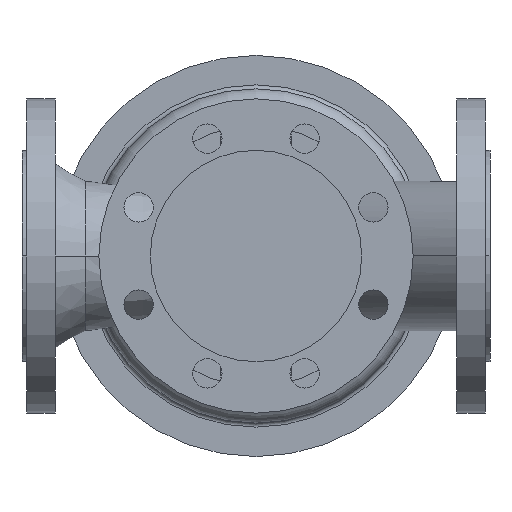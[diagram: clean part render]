
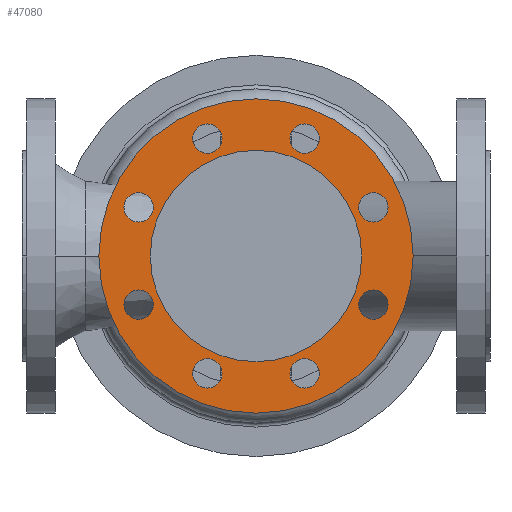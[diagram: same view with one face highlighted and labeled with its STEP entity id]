
A CAD part, front view. The second image highlights one B-rep face of the part: STEP entity #47080.
In plain terms, the highlighted planar face has unit normal (0, -1, 0).
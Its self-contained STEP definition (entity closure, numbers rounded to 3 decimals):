
#3110=CARTESIAN_POINT('',(96.,-146.5,0.));
#3120=VERTEX_POINT('',#3110);
#3150=CARTESIAN_POINT('',(175.,-146.5,0.));
#3160=DIRECTION('',(0.,-1.,0.));
#3170=DIRECTION('',(1.,0.,0.));
#3180=AXIS2_PLACEMENT_3D('',#3150,#3160,#3170);
#3190=CIRCLE('',#3180,79.);
#3200=CARTESIAN_POINT('',(254.,-146.5,0.));
#3210=VERTEX_POINT('',#3200);
#3220=EDGE_CURVE('',#3210,#3120,#3190,.T.);
#10430=CARTESIAN_POINT('',(292.5,-146.5,0.));
#10440=VERTEX_POINT('',#10430);
#10600=CARTESIAN_POINT('',(57.5,-146.5,0.));
#10610=VERTEX_POINT('',#10600);
#10640=CARTESIAN_POINT('',(175.,-146.5,0.));
#10650=DIRECTION('',(0.,1.,0.));
#10660=DIRECTION('',(1.,0.,0.));
#10670=AXIS2_PLACEMENT_3D('',#10640,#10650,#10660);
#10680=CIRCLE('',#10670,117.5);
#10690=EDGE_CURVE('',#10440,#10610,#10680,.T.);
#10850=CARTESIAN_POINT('',(251.769,-146.5,-36.355));
#10860=VERTEX_POINT('',#10850);
#11020=CARTESIAN_POINT('',(273.769,-146.5,-36.355));
#11030=VERTEX_POINT('',#11020);
#11060=CARTESIAN_POINT('',(262.769,-146.5,-36.355));
#11070=DIRECTION('',(0.,1.,0.));
#11080=DIRECTION('',(1.,0.,0.));
#11090=AXIS2_PLACEMENT_3D('',#11060,#11070,#11080);
#11100=CIRCLE('',#11090,11.);
#11110=EDGE_CURVE('',#11030,#10860,#11100,.T.);
#11270=CARTESIAN_POINT('',(273.769,-146.5,36.355));
#11280=VERTEX_POINT('',#11270);
#11440=CARTESIAN_POINT('',(251.769,-146.5,36.355));
#11450=VERTEX_POINT('',#11440);
#11480=CARTESIAN_POINT('',(262.769,-146.5,36.355));
#11490=DIRECTION('',(0.,1.,0.));
#11500=DIRECTION('',(1.,0.,0.));
#11510=AXIS2_PLACEMENT_3D('',#11480,#11490,#11500);
#11520=CIRCLE('',#11510,11.);
#11530=EDGE_CURVE('',#11450,#11280,#11520,.T.);
#11690=CARTESIAN_POINT('',(222.355,-146.5,-87.769));
#11700=VERTEX_POINT('',#11690);
#11860=CARTESIAN_POINT('',(200.355,-146.5,-87.769));
#11870=VERTEX_POINT('',#11860);
#11900=CARTESIAN_POINT('',(211.355,-146.5,-87.769));
#11910=DIRECTION('',(0.,1.,0.));
#11920=DIRECTION('',(1.,0.,0.));
#11930=AXIS2_PLACEMENT_3D('',#11900,#11910,#11920);
#11940=CIRCLE('',#11930,11.);
#11950=EDGE_CURVE('',#11870,#11700,#11940,.T.);
#12110=CARTESIAN_POINT('',(222.355,-146.5,87.769));
#12120=VERTEX_POINT('',#12110);
#12280=CARTESIAN_POINT('',(200.355,-146.5,87.769));
#12290=VERTEX_POINT('',#12280);
#12320=CARTESIAN_POINT('',(211.355,-146.5,87.769));
#12330=DIRECTION('',(0.,1.,0.));
#12340=DIRECTION('',(1.,0.,0.));
#12350=AXIS2_PLACEMENT_3D('',#12320,#12330,#12340);
#12360=CIRCLE('',#12350,11.);
#12370=EDGE_CURVE('',#12290,#12120,#12360,.T.);
#12530=CARTESIAN_POINT('',(127.645,-146.5,-87.769));
#12540=VERTEX_POINT('',#12530);
#12570=CARTESIAN_POINT('',(138.645,-146.5,-87.769));
#12580=DIRECTION('',(0.,1.,0.));
#12590=DIRECTION('',(1.,0.,0.));
#12600=AXIS2_PLACEMENT_3D('',#12570,#12580,#12590);
#12610=CIRCLE('',#12600,11.);
#12620=CARTESIAN_POINT('',(149.645,-146.5,-87.769));
#12630=VERTEX_POINT('',#12620);
#12640=EDGE_CURVE('',#12540,#12630,#12610,.T.);
#12950=CARTESIAN_POINT('',(149.645,-146.5,87.769));
#12960=VERTEX_POINT('',#12950);
#13120=CARTESIAN_POINT('',(127.645,-146.5,87.769));
#13130=VERTEX_POINT('',#13120);
#13160=CARTESIAN_POINT('',(138.645,-146.5,87.769));
#13170=DIRECTION('',(0.,1.,0.));
#13180=DIRECTION('',(1.,0.,0.));
#13190=AXIS2_PLACEMENT_3D('',#13160,#13170,#13180);
#13200=CIRCLE('',#13190,11.);
#13210=EDGE_CURVE('',#13130,#12960,#13200,.T.);
#13370=CARTESIAN_POINT('',(76.231,-146.5,-36.355));
#13380=VERTEX_POINT('',#13370);
#13410=CARTESIAN_POINT('',(87.231,-146.5,-36.355));
#13420=DIRECTION('',(0.,1.,0.));
#13430=DIRECTION('',(1.,0.,0.));
#13440=AXIS2_PLACEMENT_3D('',#13410,#13420,#13430);
#13450=CIRCLE('',#13440,11.);
#13460=CARTESIAN_POINT('',(98.231,-146.5,-36.355));
#13470=VERTEX_POINT('',#13460);
#13480=EDGE_CURVE('',#13380,#13470,#13450,.T.);
#13790=CARTESIAN_POINT('',(76.231,-146.5,36.355));
#13800=VERTEX_POINT('',#13790);
#13960=CARTESIAN_POINT('',(98.231,-146.5,36.355));
#13970=VERTEX_POINT('',#13960);
#14000=CARTESIAN_POINT('',(87.231,-146.5,36.355));
#14010=DIRECTION('',(0.,1.,0.));
#14020=DIRECTION('',(1.,0.,0.));
#14030=AXIS2_PLACEMENT_3D('',#14000,#14010,#14020);
#14040=CIRCLE('',#14030,11.);
#14050=EDGE_CURVE('',#13970,#13800,#14040,.T.);
#46530=CARTESIAN_POINT('',(175.,-146.5,0.));
#46540=DIRECTION('',(0.,1.,0.));
#46550=DIRECTION('',(0.,0.,1.));
#46560=AXIS2_PLACEMENT_3D('',#46530,#46540,#46550);
#46570=PLANE('',#46560);
#46580=EDGE_CURVE('',#13800,#13970,#14040,.T.);
#46590=ORIENTED_EDGE('',*,*,#46580,.T.);
#46600=ORIENTED_EDGE('',*,*,#14050,.T.);
#46610=EDGE_LOOP('',(#46600,#46590));
#46620=FACE_BOUND('',#46610,.T.);
#46630=EDGE_CURVE('',#13470,#13380,#13450,.T.);
#46640=ORIENTED_EDGE('',*,*,#46630,.T.);
#46650=ORIENTED_EDGE('',*,*,#13480,.T.);
#46660=EDGE_LOOP('',(#46650,#46640));
#46670=FACE_BOUND('',#46660,.T.);
#46680=EDGE_CURVE('',#12960,#13130,#13200,.T.);
#46690=ORIENTED_EDGE('',*,*,#46680,.T.);
#46700=ORIENTED_EDGE('',*,*,#13210,.T.);
#46710=EDGE_LOOP('',(#46700,#46690));
#46720=FACE_BOUND('',#46710,.T.);
#46730=EDGE_CURVE('',#12630,#12540,#12610,.T.);
#46740=ORIENTED_EDGE('',*,*,#46730,.T.);
#46750=ORIENTED_EDGE('',*,*,#12640,.T.);
#46760=EDGE_LOOP('',(#46750,#46740));
#46770=FACE_BOUND('',#46760,.T.);
#46780=EDGE_CURVE('',#12120,#12290,#12360,.T.);
#46790=ORIENTED_EDGE('',*,*,#46780,.T.);
#46800=ORIENTED_EDGE('',*,*,#12370,.T.);
#46810=EDGE_LOOP('',(#46800,#46790));
#46820=FACE_BOUND('',#46810,.T.);
#46830=EDGE_CURVE('',#11700,#11870,#11940,.T.);
#46840=ORIENTED_EDGE('',*,*,#46830,.T.);
#46850=ORIENTED_EDGE('',*,*,#11950,.T.);
#46860=EDGE_LOOP('',(#46850,#46840));
#46870=FACE_BOUND('',#46860,.T.);
#46880=EDGE_CURVE('',#11280,#11450,#11520,.T.);
#46890=ORIENTED_EDGE('',*,*,#46880,.T.);
#46900=ORIENTED_EDGE('',*,*,#11530,.T.);
#46910=EDGE_LOOP('',(#46900,#46890));
#46920=FACE_BOUND('',#46910,.T.);
#46930=EDGE_CURVE('',#10860,#11030,#11100,.T.);
#46940=ORIENTED_EDGE('',*,*,#46930,.T.);
#46950=ORIENTED_EDGE('',*,*,#11110,.T.);
#46960=EDGE_LOOP('',(#46950,#46940));
#46970=FACE_BOUND('',#46960,.T.);
#46980=EDGE_CURVE('',#10610,#10440,#10680,.T.);
#46990=ORIENTED_EDGE('',*,*,#46980,.F.);
#47000=ORIENTED_EDGE('',*,*,#10690,.F.);
#47010=EDGE_LOOP('',(#47000,#46990));
#47020=FACE_OUTER_BOUND('',#47010,.T.);
#47030=ORIENTED_EDGE('',*,*,#3220,.F.);
#47040=EDGE_CURVE('',#3120,#3210,#3190,.T.);
#47050=ORIENTED_EDGE('',*,*,#47040,.F.);
#47060=EDGE_LOOP('',(#47050,#47030));
#47070=FACE_BOUND('',#47060,.T.);
#47080=ADVANCED_FACE('',(#46620,#46670,#46720,#46770,#46820,#46870,
#46920,#46970,#47020,#47070),#46570,.F.);
